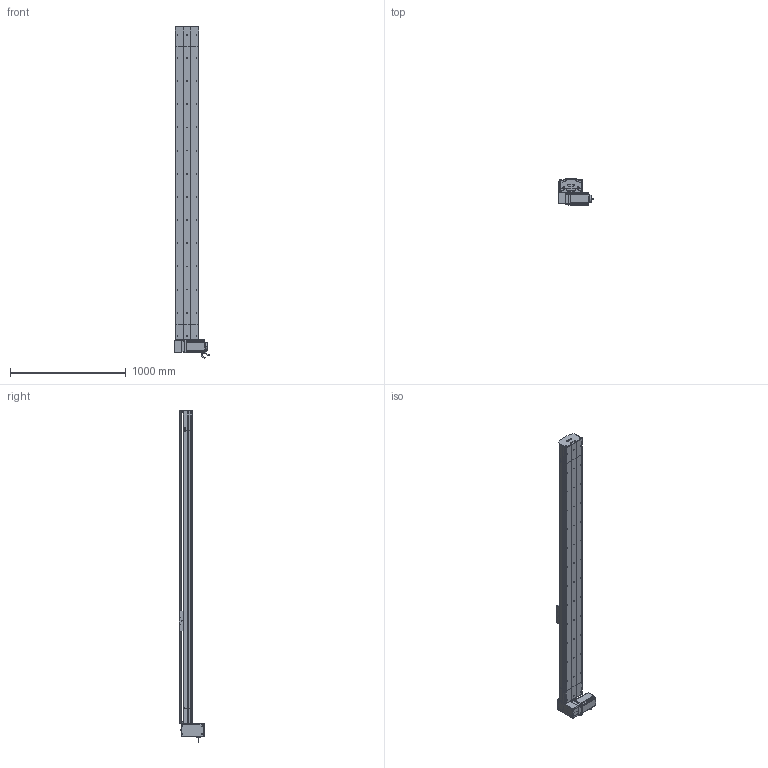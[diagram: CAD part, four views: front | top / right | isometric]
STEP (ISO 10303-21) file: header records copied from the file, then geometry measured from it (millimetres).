
FILE_DESCRIPTION (( 'STEP AP214' ), '1' );
FILE_NAME ('D20 TBH RU S2400.STEP', '2010-07-01T08:04:38', ( 'Conseil Régional Haute-Normandie' ), ( 'Conseil Régional Haute-Normandie' ), 'SwSTEP 2.0', 'SolidWorks 2010', '' );
FILE_SCHEMA (( 'AUTOMOTIVE_DESIGN' ));
Length unit declared in the file: millimetre
Products named in the file (40): cache D20_Default; cache arbre D20_Default; plaque de  bout head D20B RU_Default; Chariot D20B; guide D20B; poulie head D20_Default; couvercle head D20_Default; Course B L2400_Default; couvercle D20 S2400_Default; rail + couroie  D20 S2400; corp D20 S2400_Default; rail head D20; corpl head D20_Default; couroie_Default; head RU_Default; rail tail D20; vis M5 L8 90°_Default; tail D20_Default; Couroie tail D20_Default; poulie tail D20_Default; corpl tail D20_Default; plaque de  bout tail D20_Default; tete d''axe poulie D20B; couvercle tail D20_Default; vis M8 L12_Default; clavette; Conecteur_Default; vis M5 L12_Default; Conecteur2_Default; codeur 110BLDC170A-630x; corps 110BLDC170A-630x; avant 110BLDC170A-630x; Moteur motionking 110BLDC170A-640x; vis M5 L70_Default; vis M5 L25_Default; vis M5 L5_Default; Plaque racord D20LH_Default; Renvoi RU D20_Default; chariot D20B_Default; D20 TBH RU S2400
Assembly tree (71 placements, depth 4):
  D20 TBH RU S2400
    Course B L2400_Default
      rail + couroie  D20 S2400
      couvercle D20 S2400_Default
      corp D20 S2400_Default
    head RU_Default
      vis M5 L5_Default  x4
      vis M5 L12_Default  x10
      vis M5 L25_Default  x2
      vis M5 L70_Default  x4
      vis M8 L12_Default  x4
      cache arbre D20_Default
      Renvoi RU D20_Default
      cache D20_Default  x2
      corpl head D20_Default
      couvercle head D20_Default
      Moteur motionking 110BLDC170A-640x
        avant 110BLDC170A-630x
        Conecteur_Default
        codeur 110BLDC170A-630x
        corps 110BLDC170A-630x
        clavette
        Conecteur2_Default
      plaque de  bout head D20B RU_Default
      poulie head D20_Default
      rail head D20
      couroie_Default
      Plaque racord D20LH_Default
    tail D20_Default
      vis M5 L12_Default  x4
      rail tail D20
      plaque de  bout tail D20_Default
      Couroie tail D20_Default
      vis M5 L8 90°_Default  x2
      poulie tail D20_Default
      couvercle tail D20_Default
      tete d''axe poulie D20B
      corpl tail D20_Default
      vis M5 L25_Default  x2
    chariot D20B_Default
      vis M5 L12_Default  x4
      Chariot D20B
      guide D20B  x2
Bounding box: 304.2 x 223.2 x 2865 mm (x, y, z)
Volume: 22984168.2 mm3; surface area: 5603513.5 mm2
Topology: 95 solids, 95 shells, 2811 faces, 7173 edges, 4633 vertices
Faces by surface type: plane 1632, cylinder 855, bspline 136, cone 99, torus 89
Entity records: 89894 total; most frequent: CARTESIAN_POINT 29033, ORIENTED_EDGE 11002, DIRECTION 10362, EDGE_CURVE 5501, VERTEX_POINT 3619, VECTOR 3522, LINE 3522, AXIS2_PLACEMENT_3D 3420
